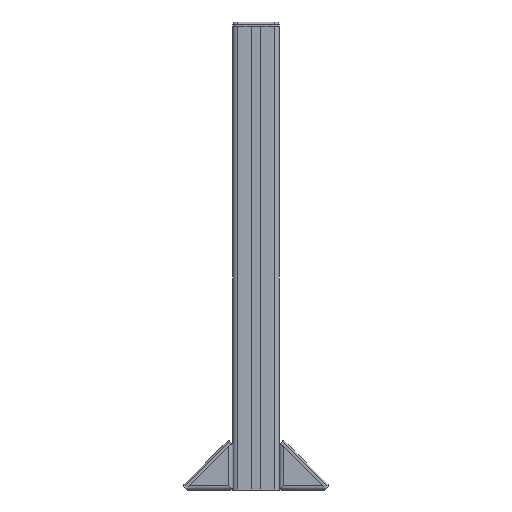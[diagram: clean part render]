
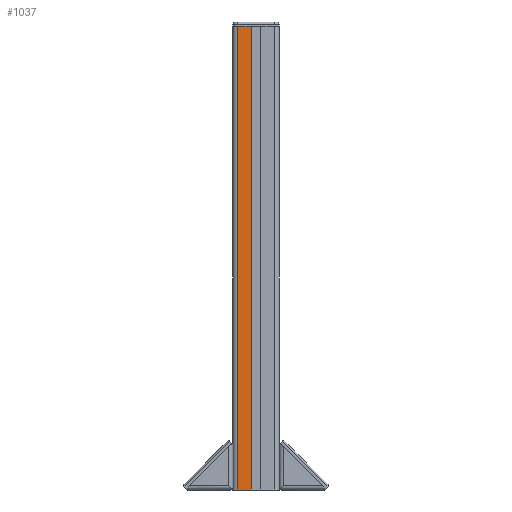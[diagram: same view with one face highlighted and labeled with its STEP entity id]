
A CAD part, left-side view. The second image highlights one B-rep face of the part: STEP entity #1037.
In plain terms, the highlighted planar face has unit normal (-1, 0, 0).
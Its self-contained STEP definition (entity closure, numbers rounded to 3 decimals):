
#935=PLANE('',#4432);
#1037=ADVANCED_FACE('',(#1178),#935,.F.);
#1178=FACE_OUTER_BOUND('',#1318,.T.);
#1318=EDGE_LOOP('',(#2018,#2019,#2020,#2021));
#2018=ORIENTED_EDGE('',*,*,#3573,.T.);
#2019=ORIENTED_EDGE('',*,*,#3462,.F.);
#2020=ORIENTED_EDGE('',*,*,#3574,.F.);
#2021=ORIENTED_EDGE('',*,*,#3570,.T.);
#2976=VERTEX_POINT('',#6042);
#2977=VERTEX_POINT('',#6044);
#3076=VERTEX_POINT('',#6278);
#3077=VERTEX_POINT('',#6280);
#3462=EDGE_CURVE('',#2976,#2977,#3953,.T.);
#3570=EDGE_CURVE('',#3077,#3076,#4017,.T.);
#3573=EDGE_CURVE('',#3076,#2977,#4019,.T.);
#3574=EDGE_CURVE('',#3077,#2976,#4020,.T.);
#3953=LINE('',#6043,#4168);
#4017=LINE('',#6279,#4232);
#4019=LINE('',#6284,#4234);
#4020=LINE('',#6285,#4235);
#4168=VECTOR('',#4663,1.);
#4232=VECTOR('',#4831,1.);
#4234=VECTOR('',#4837,1.);
#4235=VECTOR('',#4838,1.);
#4432=AXIS2_PLACEMENT_3D('',#6286,#4839,#4840);
#4663=DIRECTION('',(0.,0.,-1.));
#4831=DIRECTION('',(0.,0.,-1.));
#4837=DIRECTION('',(0.,-1.,0.));
#4838=DIRECTION('',(0.,-1.,0.));
#4839=DIRECTION('',(1.,0.,0.));
#4840=DIRECTION('',(0.,0.,-1.));
#6042=CARTESIAN_POINT('',(0.,24.,400.));
#6043=CARTESIAN_POINT('',(0.,24.,80.));
#6044=CARTESIAN_POINT('',(0.,24.,0.));
#6278=CARTESIAN_POINT('',(0.,36.,0.));
#6279=CARTESIAN_POINT('',(0.,36.,80.));
#6280=CARTESIAN_POINT('',(0.,36.,400.));
#6284=CARTESIAN_POINT('',(0.,36.,0.));
#6285=CARTESIAN_POINT('',(0.,36.,400.));
#6286=CARTESIAN_POINT('',(0.,36.,80.));
